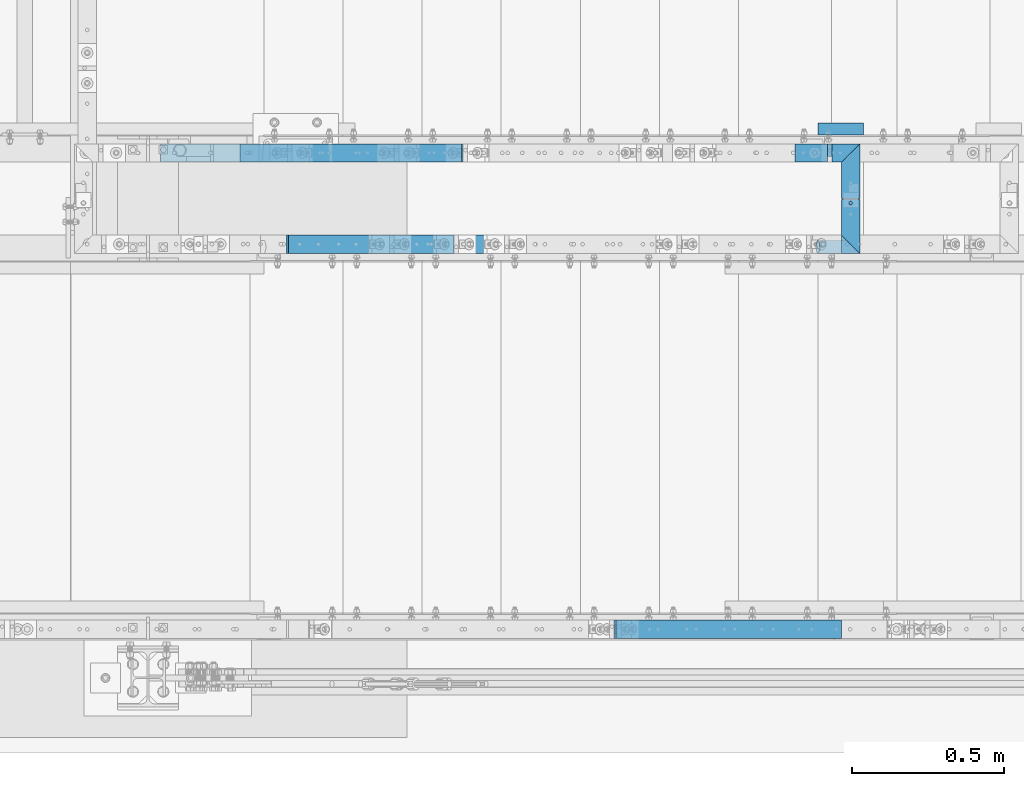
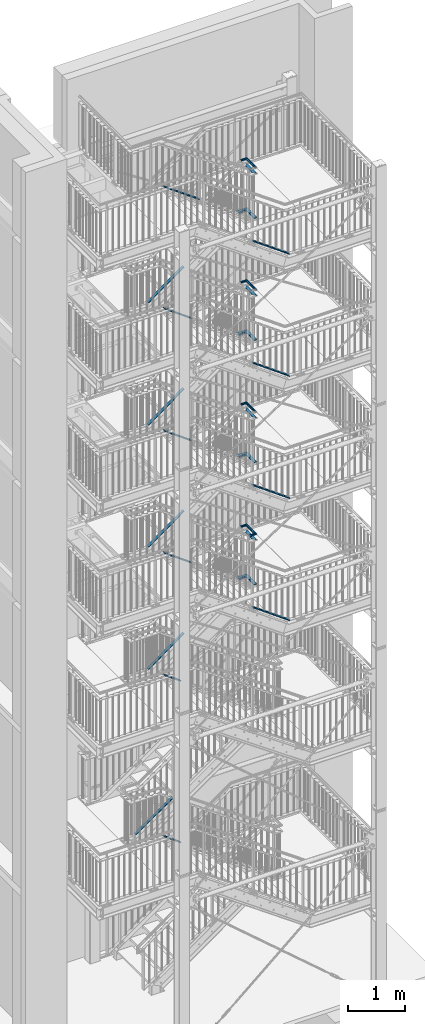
# One storey, part 138 of 831: 41 beams, 15 members, 8 openings.
"""IFC2X3 building model written with IfcOpenShell, lengths in millimetres."""

from ifc_helpers import new_model, entity, si_unit, converted_unit, frame, frame_2d, origin, origin_with_axes, origin_2d, place, context, project, spatial, rectangle, circle, hollow_circle, l_section, extrude, clip, halfspace, material, element, save


model = new_model("IFC2X3")

# Units and contexts
model_context = context("Model", 3, precision=1e-09, world=origin_with_axes())
ifc_project = project(units=[si_unit("LENGTHUNIT", "METRE", prefix="MILLI"), si_unit("AREAUNIT", "SQUARE_METRE"), si_unit("VOLUMEUNIT", "CUBIC_METRE"), converted_unit("PLANEANGLEUNIT", "DEGREE", entity("IfcPlaneAngleMeasure", 0.01745329), si_unit("PLANEANGLEUNIT", "RADIAN"), dimensions=[0, 0, 0, 0, 0, 0, 0])], contexts=[model_context])

# Site, building, storey
site_placement = place(None, origin_with_axes())
site = spatial("IfcSite", under=ifc_project, at=site_placement, Name="Site", CompositionType="ELEMENT")
building_placement = place(site_placement, origin_with_axes())
building = spatial("IfcBuilding", under=site, at=building_placement, Name="Struktur 1", CompositionType="ELEMENT")
storey_placement = place(building_placement, origin_with_axes())
storey = spatial("IfcBuildingStorey", under=building, at=storey_placement, Name="Default Storey", CompositionType="ELEMENT", Elevation=0.0)

# Members
ifc_material = material(Name="S235JR")
member_1_placement = place(None, frame((7131.715066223, 4526.736971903, 13962.449833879), z_axis=(0.810033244, 0.0, -0.586383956), x_axis=(-0.586383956, 0.0, -0.810033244)))
element("IfcMember", 1, at=member_1_placement, inside=storey, material=ifc_material, Name="Railing_Kneerail_Stair#15", ObjectType="Railing_Kneerail_Stair#15", context=model_context, shape_type="SweptSolid", body=[
    extrude(rectangle(XDim=10.0, YDim=60.0, at=origin_2d()), origin(), (0.0, 0.0, -1.0), 915.383630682),
])
member_2_placement = place(None, frame((7131.937672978, 4526.736971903, 16589.941905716), z_axis=(0.811618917, 0.0, -0.584187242), x_axis=(-0.584187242, 0.0, -0.811618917)))
element("IfcMember", 2, at=member_2_placement, inside=storey, material=ifc_material, Name="Railing_Kneerail_Stair#15", ObjectType="Railing_Kneerail_Stair#15", context=model_context, shape_type="SweptSolid", body=[
    extrude(rectangle(XDim=10.0, YDim=60.0, at=origin_2d()), origin(), (0.0, 0.0, -1.0), 913.8830392),
])
member_3_placement = place(None, frame((4900.549106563, 6091.736971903, 3912.909683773), z_axis=(-0.818063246, 0.0, -0.575128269), x_axis=(0.575128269, 0.0, -0.818063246)))
element("IfcMember", 3, at=member_3_placement, inside=storey, material=ifc_material, Name="Railing_Kneerail_Stair#2", ObjectType="Railing_Kneerail_Stair#2", context=model_context, shape_type="SweptSolid", body=[
    extrude(rectangle(XDim=10.0, YDim=60.0, at=origin_2d()), origin(), (0.0, 0.0, -1.0), 932.025112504),
])

# Beams
beam_1_placement = place(None, frame((7173.622212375, 6142.936971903, 17664.0000003), z_axis=(0.0, 1.0, 0.0), x_axis=(0.0, 0.0, -1.0)))
element("IfcBeam", 4, at=beam_1_placement, inside=storey, material=ifc_material, Name="Railing_Handrail_Landing#5", ObjectType="Railing_Handrail_Landing#5", context=model_context, shape_type="Clipping", body=[
    clip(extrude(hollow_circle(Radius=21.2, WallThickness=3.2, at=origin_2d()), origin(), (0.0, 0.0, -1.0), 201.2), halfspace(frame((17664.0000003, 6637.078885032, -6679.480299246), z_axis=(0.0, -0.707106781, -0.707106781), x_axis=(0.0, -0.707106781, 0.707106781)), True)),
])
beam_2_placement = place(None, frame((7173.622212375, 5938.736971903, 17664.0000003), z_axis=(0.0, 1.0, 0.0), x_axis=(0.0, 0.0, -1.0)))
element("IfcBeam", 5, at=beam_2_placement, inside=storey, material=ifc_material, Name="Railing_Handrail_Landing#5", ObjectType="Railing_Handrail_Landing#5", context=model_context, shape_type="Clipping", body=[
    clip(extrude(hollow_circle(Radius=21.2, WallThickness=3.2, at=origin_2d()), origin(), (0.0, 0.0, -1.0), 198.2), halfspace(frame((17664.0000003, 695.341913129, 539.543327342), z_axis=(0.0, -0.707106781, 0.707106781), x_axis=(0.0, 0.707106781, 0.707106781)), True)),
])
beam_3_placement = place(None, frame((7164.822212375, 6134.748598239, 17537.8000003), z_axis=(0.0, 1.0, 0.0), x_axis=(0.0, 0.0, -1.0)))
element("IfcBeam", 6, at=beam_3_placement, inside=storey, material=ifc_material, Name="Railing_Kneerail_Landing#1006", ObjectType="Railing_Kneerail_Landing#1006", context=model_context, shape_type="Clipping", body=[
    clip(extrude(rectangle(XDim=10.0, YDim=60.0, at=origin_2d()), origin(), (0.0, 0.0, -1.0), 193.011626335), halfspace(frame((17537.8000003, 6628.278885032, -6671.291925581), z_axis=(0.0, -0.707106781, -0.707106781), x_axis=(0.0, -0.707106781, 0.707106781)), True)),
])

# Beam, opening
beam_4_placement = place(None, frame((7164.822212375, 5938.736971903, 17537.8000003), z_axis=(0.0, 1.0, 0.0), x_axis=(0.0, 0.0, -1.0)))
beam_4 = element("IfcBeam", 7, at=beam_4_placement, inside=storey, material=ifc_material, Name="Railing_Kneerail_Landing#1006", ObjectType="Railing_Kneerail_Landing#1006", context=model_context, shape_type="Clipping", body=[
    clip(extrude(rectangle(XDim=10.0, YDim=60.0, at=origin_2d()), origin(), (0.0, 0.0, -1.0), 190.011626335), halfspace(frame((17537.8000003, 686.541913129, 539.543327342), z_axis=(0.0, -0.707106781, 0.707106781), x_axis=(0.0, 0.707106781, 0.707106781)), True)),
])
opening_1_placement = place(beam_4_placement, frame((5.5, 0.0, -6.998999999), z_axis=(1.0, 0.0, 0.0), x_axis=(0.0, 1.0, 0.0)))
element("IfcOpeningElement", 8, at=opening_1_placement, cuts=beam_4, ObjectType="Opening", context=model_context, shape_type="SweptSolid", body=[
    extrude(circle(Radius=5.001, at=frame_2d((0.0, -5.001), x_axis=(1.0, 0.0))), origin(), (0.0, 0.0, -1.0), 11.0),
])

# Beam
beam_5_placement = place(None, frame((7164.822212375, 6134.748598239, 16589.0000003), z_axis=(0.0, 1.0, 0.0), x_axis=(0.0, 0.0, -1.0)))
element("IfcBeam", 9, at=beam_5_placement, inside=storey, material=ifc_material, Name="Railing_Kneerail_Landing#6", ObjectType="Railing_Kneerail_Landing#6", context=model_context, shape_type="Clipping", body=[
    clip(extrude(rectangle(XDim=10.0, YDim=60.0, at=origin_2d()), origin(), (0.0, 0.0, -1.0), 193.011626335), halfspace(frame((16589.0000003, 6628.278885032, -6671.291925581), z_axis=(0.0, -0.707106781, -0.707106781), x_axis=(0.0, -0.707106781, 0.707106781)), True)),
])

# Beam, opening
beam_6_placement = place(None, frame((7164.822212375, 5938.736971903, 16589.0000003), z_axis=(0.0, 1.0, 0.0), x_axis=(0.0, 0.0, -1.0)))
beam_6 = element("IfcBeam", 10, at=beam_6_placement, inside=storey, material=ifc_material, Name="Railing_Kneerail_Landing#6", ObjectType="Railing_Kneerail_Landing#6", context=model_context, shape_type="SweptSolid", body=[
    extrude(rectangle(XDim=10.0, YDim=60.0, at=origin_2d()), origin(), (0.0, 0.0, -1.0), 177.0),
])
opening_2_placement = place(beam_6_placement, frame((5.5, 0.0, -6.998999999), z_axis=(1.0, 0.0, 0.0), x_axis=(0.0, 1.0, 0.0)))
element("IfcOpeningElement", 11, at=opening_2_placement, cuts=beam_6, ObjectType="Opening", context=model_context, shape_type="SweptSolid", body=[
    extrude(circle(Radius=5.001, at=frame_2d((0.0, -5.001), x_axis=(1.0, 0.0))), origin(), (0.0, 0.0, -1.0), 11.0),
])

# Beams
beam_7_placement = place(None, frame((7173.622212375, 6142.936971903, 15036.5000001), z_axis=(0.0, 1.0, 0.0), x_axis=(0.0, 0.0, -1.0)))
element("IfcBeam", 12, at=beam_7_placement, inside=storey, material=ifc_material, Name="Railing_Handrail_Landing#5", ObjectType="Railing_Handrail_Landing#5", context=model_context, shape_type="Clipping", body=[
    clip(extrude(hollow_circle(Radius=21.2, WallThickness=3.2, at=origin_2d()), origin(), (0.0, 0.0, -1.0), 201.2), halfspace(frame((15036.5000001, 6637.078885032, -6679.480299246), z_axis=(0.0, -0.707106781, -0.707106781), x_axis=(0.0, -0.707106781, 0.707106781)), True)),
])
beam_8_placement = place(None, frame((7173.622212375, 5938.736971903, 15036.5000001), z_axis=(0.0, 1.0, 0.0), x_axis=(0.0, 0.0, -1.0)))
element("IfcBeam", 13, at=beam_8_placement, inside=storey, material=ifc_material, Name="Railing_Handrail_Landing#5", ObjectType="Railing_Handrail_Landing#5", context=model_context, shape_type="Clipping", body=[
    clip(extrude(hollow_circle(Radius=21.2, WallThickness=3.2, at=origin_2d()), origin(), (0.0, 0.0, -1.0), 198.2), halfspace(frame((15036.5000001, 695.341913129, 539.543327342), z_axis=(0.0, -0.707106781, 0.707106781), x_axis=(0.0, 0.707106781, 0.707106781)), True)),
])
beam_9_placement = place(None, frame((7164.822212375, 6134.748598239, 14910.3000001), z_axis=(0.0, 1.0, 0.0), x_axis=(0.0, 0.0, -1.0)))
element("IfcBeam", 14, at=beam_9_placement, inside=storey, material=ifc_material, Name="Railing_Kneerail_Landing#1006", ObjectType="Railing_Kneerail_Landing#1006", context=model_context, shape_type="Clipping", body=[
    clip(extrude(rectangle(XDim=10.0, YDim=60.0, at=origin_2d()), origin(), (0.0, 0.0, -1.0), 193.011626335), halfspace(frame((14910.3000001, 6628.278885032, -6671.291925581), z_axis=(0.0, -0.707106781, -0.707106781), x_axis=(0.0, -0.707106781, 0.707106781)), True)),
])

# Beam, opening
beam_10_placement = place(None, frame((7164.822212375, 5938.736971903, 14910.3000001), z_axis=(0.0, 1.0, 0.0), x_axis=(0.0, 0.0, -1.0)))
beam_10 = element("IfcBeam", 15, at=beam_10_placement, inside=storey, material=ifc_material, Name="Railing_Kneerail_Landing#1006", ObjectType="Railing_Kneerail_Landing#1006", context=model_context, shape_type="Clipping", body=[
    clip(extrude(rectangle(XDim=10.0, YDim=60.0, at=origin_2d()), origin(), (0.0, 0.0, -1.0), 190.011626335), halfspace(frame((14910.3000001, 686.541913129, 539.543327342), z_axis=(0.0, -0.707106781, 0.707106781), x_axis=(0.0, 0.707106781, 0.707106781)), True)),
])
opening_3_placement = place(beam_10_placement, frame((5.5, 0.0, -6.998999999), z_axis=(1.0, 0.0, 0.0), x_axis=(0.0, 1.0, 0.0)))
element("IfcOpeningElement", 16, at=opening_3_placement, cuts=beam_10, ObjectType="Opening", context=model_context, shape_type="SweptSolid", body=[
    extrude(circle(Radius=5.001, at=frame_2d((0.0, -5.001), x_axis=(1.0, 0.0))), origin(), (0.0, 0.0, -1.0), 11.0),
])

# Beam
beam_11_placement = place(None, frame((7164.822212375, 6134.748598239, 13961.5000001), z_axis=(0.0, 1.0, 0.0), x_axis=(0.0, 0.0, -1.0)))
element("IfcBeam", 17, at=beam_11_placement, inside=storey, material=ifc_material, Name="Railing_Kneerail_Landing#6", ObjectType="Railing_Kneerail_Landing#6", context=model_context, shape_type="Clipping", body=[
    clip(extrude(rectangle(XDim=10.0, YDim=60.0, at=origin_2d()), origin(), (0.0, 0.0, -1.0), 193.011626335), halfspace(frame((13961.5000001, 6628.278885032, -6671.291925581), z_axis=(0.0, -0.707106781, -0.707106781), x_axis=(0.0, -0.707106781, 0.707106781)), True)),
])

# Beam, opening
beam_12_placement = place(None, frame((7164.822212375, 5938.736971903, 13961.5000001), z_axis=(0.0, 1.0, 0.0), x_axis=(0.0, 0.0, -1.0)))
beam_12 = element("IfcBeam", 18, at=beam_12_placement, inside=storey, material=ifc_material, Name="Railing_Kneerail_Landing#6", ObjectType="Railing_Kneerail_Landing#6", context=model_context, shape_type="SweptSolid", body=[
    extrude(rectangle(XDim=10.0, YDim=60.0, at=origin_2d()), origin(), (0.0, 0.0, -1.0), 177.0),
])
opening_4_placement = place(beam_12_placement, frame((5.5, 0.0, -6.998999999), z_axis=(1.0, 0.0, 0.0), x_axis=(0.0, 1.0, 0.0)))
element("IfcOpeningElement", 19, at=opening_4_placement, cuts=beam_12, ObjectType="Opening", context=model_context, shape_type="SweptSolid", body=[
    extrude(circle(Radius=5.001, at=frame_2d((0.0, -5.001), x_axis=(1.0, 0.0))), origin(), (0.0, 0.0, -1.0), 11.0),
])

# Beams
beam_13_placement = place(None, frame((7173.622212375, 6142.936971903, 12405.5000003), z_axis=(0.0, 1.0, 0.0), x_axis=(0.0, 0.0, -1.0)))
element("IfcBeam", 20, at=beam_13_placement, inside=storey, material=ifc_material, Name="Railing_Handrail_Landing#5", ObjectType="Railing_Handrail_Landing#5", context=model_context, shape_type="Clipping", body=[
    clip(extrude(hollow_circle(Radius=21.2, WallThickness=3.2, at=origin_2d()), origin(), (0.0, 0.0, -1.0), 201.2), halfspace(frame((12405.5000003, 6637.078885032, -6679.480299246), z_axis=(0.0, -0.707106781, -0.707106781), x_axis=(0.0, -0.707106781, 0.707106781)), True)),
])
beam_14_placement = place(None, frame((7173.622212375, 5938.736971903, 12405.5000003), z_axis=(0.0, 1.0, 0.0), x_axis=(0.0, 0.0, -1.0)))
element("IfcBeam", 21, at=beam_14_placement, inside=storey, material=ifc_material, Name="Railing_Handrail_Landing#5", ObjectType="Railing_Handrail_Landing#5", context=model_context, shape_type="Clipping", body=[
    clip(extrude(hollow_circle(Radius=21.2, WallThickness=3.2, at=origin_2d()), origin(), (0.0, 0.0, -1.0), 198.2), halfspace(frame((12405.5000003, 695.341913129, 539.543327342), z_axis=(0.0, -0.707106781, 0.707106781), x_axis=(0.0, 0.707106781, 0.707106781)), True)),
])
beam_15_placement = place(None, frame((7164.822212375, 6134.748598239, 12279.3000003), z_axis=(0.0, 1.0, 0.0), x_axis=(0.0, 0.0, -1.0)))
element("IfcBeam", 22, at=beam_15_placement, inside=storey, material=ifc_material, Name="Railing_Kneerail_Landing#1006", ObjectType="Railing_Kneerail_Landing#1006", context=model_context, shape_type="Clipping", body=[
    clip(extrude(rectangle(XDim=10.0, YDim=60.0, at=origin_2d()), origin(), (0.0, 0.0, -1.0), 193.011626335), halfspace(frame((12279.3000003, 6628.278885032, -6671.291925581), z_axis=(0.0, -0.707106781, -0.707106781), x_axis=(0.0, -0.707106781, 0.707106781)), True)),
])

# Beam, opening
beam_16_placement = place(None, frame((7164.822212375, 5938.736971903, 12279.3000003), z_axis=(0.0, 1.0, 0.0), x_axis=(0.0, 0.0, -1.0)))
beam_16 = element("IfcBeam", 23, at=beam_16_placement, inside=storey, material=ifc_material, Name="Railing_Kneerail_Landing#1006", ObjectType="Railing_Kneerail_Landing#1006", context=model_context, shape_type="Clipping", body=[
    clip(extrude(rectangle(XDim=10.0, YDim=60.0, at=origin_2d()), origin(), (0.0, 0.0, -1.0), 190.011626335), halfspace(frame((12279.3000003, 686.541913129, 539.543327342), z_axis=(0.0, -0.707106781, 0.707106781), x_axis=(0.0, 0.707106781, 0.707106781)), True)),
])
opening_5_placement = place(beam_16_placement, frame((5.5, 0.0, -6.998999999), z_axis=(1.0, 0.0, 0.0), x_axis=(0.0, 1.0, 0.0)))
element("IfcOpeningElement", 24, at=opening_5_placement, cuts=beam_16, ObjectType="Opening", context=model_context, shape_type="SweptSolid", body=[
    extrude(circle(Radius=5.001, at=frame_2d((0.0, -5.001), x_axis=(1.0, 0.0))), origin(), (0.0, 0.0, -1.0), 11.0),
])

# Beam
beam_17_placement = place(None, frame((7164.822212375, 6134.748598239, 11330.5000003), z_axis=(0.0, 1.0, 0.0), x_axis=(0.0, 0.0, -1.0)))
element("IfcBeam", 25, at=beam_17_placement, inside=storey, material=ifc_material, Name="Railing_Kneerail_Landing#6", ObjectType="Railing_Kneerail_Landing#6", context=model_context, shape_type="Clipping", body=[
    clip(extrude(rectangle(XDim=10.0, YDim=60.0, at=origin_2d()), origin(), (0.0, 0.0, -1.0), 193.011626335), halfspace(frame((11330.5000003, 6628.278885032, -6671.291925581), z_axis=(0.0, -0.707106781, -0.707106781), x_axis=(0.0, -0.707106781, 0.707106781)), True)),
])

# Beam, opening
beam_18_placement = place(None, frame((7164.822212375, 5938.736971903, 11330.5000003), z_axis=(0.0, 1.0, 0.0), x_axis=(0.0, 0.0, -1.0)))
beam_18 = element("IfcBeam", 26, at=beam_18_placement, inside=storey, material=ifc_material, Name="Railing_Kneerail_Landing#6", ObjectType="Railing_Kneerail_Landing#6", context=model_context, shape_type="SweptSolid", body=[
    extrude(rectangle(XDim=10.0, YDim=60.0, at=origin_2d()), origin(), (0.0, 0.0, -1.0), 177.0),
])
opening_6_placement = place(beam_18_placement, frame((5.5, 0.0, -6.998999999), z_axis=(1.0, 0.0, 0.0), x_axis=(0.0, 1.0, 0.0)))
element("IfcOpeningElement", 27, at=opening_6_placement, cuts=beam_18, ObjectType="Opening", context=model_context, shape_type="SweptSolid", body=[
    extrude(circle(Radius=5.001, at=frame_2d((0.0, -5.001), x_axis=(1.0, 0.0))), origin(), (0.0, 0.0, -1.0), 11.0),
])

# Beams
beam_19_placement = place(None, frame((7173.622212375, 6142.936971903, 9776.0), z_axis=(0.0, 1.0, 0.0), x_axis=(0.0, 0.0, -1.0)))
element("IfcBeam", 28, at=beam_19_placement, inside=storey, material=ifc_material, Name="Railing_Handrail_Landing#5", ObjectType="Railing_Handrail_Landing#5", context=model_context, shape_type="Clipping", body=[
    clip(extrude(hollow_circle(Radius=21.2, WallThickness=3.2, at=origin_2d()), origin(), (0.0, 0.0, -1.0), 201.2), halfspace(frame((9776.0, 6637.078885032, -6679.480299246), z_axis=(0.0, -0.707106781, -0.707106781), x_axis=(0.0, -0.707106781, 0.707106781)), True)),
])
beam_20_placement = place(None, frame((7173.622212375, 5938.736971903, 9776.0), z_axis=(0.0, 1.0, 0.0), x_axis=(0.0, 0.0, -1.0)))
element("IfcBeam", 29, at=beam_20_placement, inside=storey, material=ifc_material, Name="Railing_Handrail_Landing#5", ObjectType="Railing_Handrail_Landing#5", context=model_context, shape_type="Clipping", body=[
    clip(extrude(hollow_circle(Radius=21.2, WallThickness=3.2, at=origin_2d()), origin(), (0.0, 0.0, -1.0), 198.2), halfspace(frame((9776.0, 695.341913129, 539.543327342), z_axis=(0.0, -0.707106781, 0.707106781), x_axis=(0.0, 0.707106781, 0.707106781)), True)),
])
beam_21_placement = place(None, frame((7164.822212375, 6134.748598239, 9649.8), z_axis=(0.0, 1.0, 0.0), x_axis=(0.0, 0.0, -1.0)))
element("IfcBeam", 30, at=beam_21_placement, inside=storey, material=ifc_material, Name="Railing_Kneerail_Landing#1006", ObjectType="Railing_Kneerail_Landing#1006", context=model_context, shape_type="Clipping", body=[
    clip(extrude(rectangle(XDim=10.0, YDim=60.0, at=origin_2d()), origin(), (0.0, 0.0, -1.0), 193.011626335), halfspace(frame((9649.8, 6628.278885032, -6671.291925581), z_axis=(0.0, -0.707106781, -0.707106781), x_axis=(0.0, -0.707106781, 0.707106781)), True)),
])

# Beam, opening
beam_22_placement = place(None, frame((7164.822212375, 5938.736971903, 9649.8), z_axis=(0.0, 1.0, 0.0), x_axis=(0.0, 0.0, -1.0)))
beam_22 = element("IfcBeam", 31, at=beam_22_placement, inside=storey, material=ifc_material, Name="Railing_Kneerail_Landing#1006", ObjectType="Railing_Kneerail_Landing#1006", context=model_context, shape_type="Clipping", body=[
    clip(extrude(rectangle(XDim=10.0, YDim=60.0, at=origin_2d()), origin(), (0.0, 0.0, -1.0), 190.011626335), halfspace(frame((9649.8, 686.541913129, 539.543327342), z_axis=(0.0, -0.707106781, 0.707106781), x_axis=(0.0, 0.707106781, 0.707106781)), True)),
])
opening_7_placement = place(beam_22_placement, frame((5.5, 0.0, -6.998999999), z_axis=(1.0, 0.0, 0.0), x_axis=(0.0, 1.0, 0.0)))
element("IfcOpeningElement", 32, at=opening_7_placement, cuts=beam_22, ObjectType="Opening", context=model_context, shape_type="SweptSolid", body=[
    extrude(circle(Radius=5.001, at=frame_2d((0.0, -5.001), x_axis=(1.0, 0.0))), origin(), (0.0, 0.0, -1.0), 11.0),
])

# Beam
beam_23_placement = place(None, frame((7164.822212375, 6134.748598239, 8701.0), z_axis=(0.0, 1.0, 0.0), x_axis=(0.0, 0.0, -1.0)))
element("IfcBeam", 33, at=beam_23_placement, inside=storey, material=ifc_material, Name="Railing_Kneerail_Landing#6", ObjectType="Railing_Kneerail_Landing#6", context=model_context, shape_type="Clipping", body=[
    clip(extrude(rectangle(XDim=10.0, YDim=60.0, at=origin_2d()), origin(), (0.0, 0.0, -1.0), 193.011626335), halfspace(frame((8701.0, 6628.278885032, -6671.291925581), z_axis=(0.0, -0.707106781, -0.707106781), x_axis=(0.0, -0.707106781, 0.707106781)), True)),
])

# Beam, opening
beam_24_placement = place(None, frame((7164.822212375, 5938.736971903, 8701.0), z_axis=(0.0, 1.0, 0.0), x_axis=(0.0, 0.0, -1.0)))
beam_24 = element("IfcBeam", 34, at=beam_24_placement, inside=storey, material=ifc_material, Name="Railing_Kneerail_Landing#6", ObjectType="Railing_Kneerail_Landing#6", context=model_context, shape_type="SweptSolid", body=[
    extrude(rectangle(XDim=10.0, YDim=60.0, at=origin_2d()), origin(), (0.0, 0.0, -1.0), 177.0),
])
opening_8_placement = place(beam_24_placement, frame((5.5, 0.0, -6.998999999), z_axis=(1.0, 0.0, 0.0), x_axis=(0.0, 1.0, 0.0)))
element("IfcOpeningElement", 35, at=opening_8_placement, cuts=beam_24, ObjectType="Opening", context=model_context, shape_type="SweptSolid", body=[
    extrude(circle(Radius=5.001, at=frame_2d((0.0, -5.001), x_axis=(1.0, 0.0))), origin(), (0.0, 0.0, -1.0), 11.0),
])

# Beams
for number, where, z_axis, x_axis, name in (
    (36, (7206.713402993, 6160.936971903, 11254.3000003), (1.0, 0.0, 0.0), (0.0, 0.0, -1.0), "TopLanding#3"),
    (37, (7206.713402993, 6160.936971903, 8624.8), (1.0, 0.0, 0.0), (0.0, 0.0, -1.0), "TopLanding#3"),
    (38, (7206.713402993, 6160.936971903, 13885.3000001), (1.0, 0.0, 0.0), (0.0, 0.0, -1.0), "TopLanding#3"),
    (39, (7206.713402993, 6160.936971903, 16512.8000003), (1.0, 0.0, 0.0), (0.0, 0.0, -1.0), "TopLanding#3"),
):
    element("IfcBeam", number, at=place(None, frame(where, z_axis=z_axis, x_axis=x_axis)), inside=storey, material=ifc_material, Name=name, ObjectType="TopLanding#3", context=model_context, shape_type="SweptSolid", body=[
        extrude(l_section(Depth=40.0, Width=40.0, Thickness=4.0, FilletRadius=6.0, EdgeRadius=3.0, at=frame_2d((8.8, 8.8))), origin(), (0.0, 0.0, -1.0), 150.0),
    ])
beam_25_placement = place(None, frame((7025.200780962, 6100.536971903, 9776.0), z_axis=(-1.0, 0.0, 0.0), x_axis=(0.0, 0.0, -1.0)))
element("IfcBeam", 40, at=beam_25_placement, inside=storey, material=ifc_material, Name="Railing_Handrail_Landing#4", ObjectType="Railing_Handrail_Landing#4", context=model_context, shape_type="Clipping", body=[
    clip(clip(extrude(hollow_circle(Radius=21.2, WallThickness=3.2, at=origin_2d()), origin(), (0.0, 0.0, -1.0), 190.821431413), halfspace(frame((9776.0, 6637.078885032, 6488.658867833), z_axis=(0.0, -0.707106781, 0.707106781), x_axis=(0.0, 0.707106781, 0.707106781)), True)), halfspace(frame((6781.567004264, 6100.536971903, -2226.46429398), z_axis=(-0.307936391, 0.0, -0.951406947), x_axis=(0.0, -1.0, 0.0)), True)),
])

# Member
member_4_placement = place(None, frame((5161.667486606, 6091.736971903, 7385.94824821), z_axis=(-0.810350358, 0.0, -0.585945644), x_axis=(0.585945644, 0.0, -0.810350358)))
element("IfcMember", 41, at=member_4_placement, inside=storey, material=ifc_material, Name="Railing_Kneerail_Stair#2", ObjectType="Railing_Kneerail_Stair#2", context=model_context, shape_type="SweptSolid", body=[
    extrude(rectangle(XDim=10.0, YDim=60.0, at=origin_2d()), origin(), (0.0, 0.0, -1.0), 897.286810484),
])

# Beams
beam_26_placement = place(None, frame((6981.974400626, 6091.736971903, 8701.0), z_axis=(-1.0, 0.0, 0.0), x_axis=(0.0, 0.0, -1.0)))
element("IfcBeam", 42, at=beam_26_placement, inside=storey, material=ifc_material, Name="Railing_Kneerail_Landing#4", ObjectType="Railing_Kneerail_Landing#4", context=model_context, shape_type="SweptSolid", body=[
    extrude(rectangle(XDim=10.0, YDim=60.0, at=origin_2d()), origin(), (0.0, 0.0, -1.0), 107.240002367),
])
beam_27_placement = place(None, frame((7104.214402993, 6091.736971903, 8701.0), z_axis=(-1.0, 0.0, 0.0), x_axis=(0.0, 0.0, -1.0)))
element("IfcBeam", 43, at=beam_27_placement, inside=storey, material=ifc_material, Name="Railing_Kneerail_Landing#5", ObjectType="Railing_Kneerail_Landing#5", context=model_context, shape_type="Clipping", body=[
    clip(extrude(rectangle(XDim=10.0, YDim=60.0, at=origin_2d()), origin(), (0.0, 0.0, -1.0), 103.619435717), halfspace(frame((8701.0, 6628.278885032, 6567.672489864), z_axis=(0.0, -0.707106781, 0.707106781), x_axis=(0.0, 0.707106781, 0.707106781)), True)),
])
beam_28_placement = place(None, frame((7025.205380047, 6100.536971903, 12405.5000003), z_axis=(-1.0, 0.0, 0.0), x_axis=(0.0, 0.0, -1.0)))
element("IfcBeam", 44, at=beam_28_placement, inside=storey, material=ifc_material, Name="Railing_Handrail_Landing#4", ObjectType="Railing_Handrail_Landing#4", context=model_context, shape_type="Clipping", body=[
    clip(clip(extrude(hollow_circle(Radius=21.2, WallThickness=3.2, at=origin_2d()), origin(), (0.0, 0.0, -1.0), 190.816832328), halfspace(frame((12405.5000003, 6637.078885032, 6488.663466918), z_axis=(0.0, -0.707106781, 0.707106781), x_axis=(0.0, 0.707106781, 0.707106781)), True)), halfspace(frame((9167.585155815, 6100.536971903, -2994.158300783), z_axis=(-0.307506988, 0.0, -0.951545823), x_axis=(0.0, -1.0, 0.0)), True)),
])

# Member
member_5_placement = place(None, frame((5161.593434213, 6091.736971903, 10017.945605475), z_axis=(-0.810878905, 0.0, -0.585213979), x_axis=(0.585213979, 0.0, -0.810878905)))
element("IfcMember", 45, at=member_5_placement, inside=storey, material=ifc_material, Name="Railing_Kneerail_Stair#2", ObjectType="Railing_Kneerail_Stair#2", context=model_context, shape_type="SweptSolid", body=[
    extrude(rectangle(XDim=10.0, YDim=60.0, at=origin_2d()), origin(), (0.0, 0.0, -1.0), 896.797776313),
])

# Beams
beam_29_placement = place(None, frame((6981.89902139, 6091.736971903, 11330.5000003), z_axis=(-1.0, 0.0, 0.0), x_axis=(0.0, 0.0, -1.0)))
element("IfcBeam", 46, at=beam_29_placement, inside=storey, material=ifc_material, Name="Railing_Kneerail_Landing#4", ObjectType="Railing_Kneerail_Landing#4", context=model_context, shape_type="SweptSolid", body=[
    extrude(rectangle(XDim=10.0, YDim=60.0, at=origin_2d()), origin(), (0.0, 0.0, -1.0), 107.315381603),
])
beam_30_placement = place(None, frame((7104.214402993, 6091.736971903, 11330.5000003), z_axis=(-1.0, 0.0, 0.0), x_axis=(0.0, 0.0, -1.0)))
element("IfcBeam", 47, at=beam_30_placement, inside=storey, material=ifc_material, Name="Railing_Kneerail_Landing#5", ObjectType="Railing_Kneerail_Landing#5", context=model_context, shape_type="Clipping", body=[
    clip(extrude(rectangle(XDim=10.0, YDim=60.0, at=origin_2d()), origin(), (0.0, 0.0, -1.0), 103.619435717), halfspace(frame((11330.5000003, 6628.278885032, 6567.672489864), z_axis=(0.0, -0.707106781, 0.707106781), x_axis=(0.0, 0.707106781, 0.707106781)), True)),
])
beam_31_placement = place(None, frame((7025.198020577, 6100.536971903, 15036.5000001), z_axis=(-1.0, 0.0, 0.0), x_axis=(0.0, 0.0, -1.0)))
element("IfcBeam", 48, at=beam_31_placement, inside=storey, material=ifc_material, Name="Railing_Handrail_Landing#4", ObjectType="Railing_Handrail_Landing#4", context=model_context, shape_type="Clipping", body=[
    clip(clip(extrude(hollow_circle(Radius=21.2, WallThickness=3.2, at=origin_2d()), origin(), (0.0, 0.0, -1.0), 190.824191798), halfspace(frame((15036.5000001, 6637.078885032, 6488.656107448), z_axis=(0.0, -0.707106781, 0.707106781), x_axis=(0.0, 0.707106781, 0.707106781)), True)), halfspace(frame((11539.310370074, 6100.536971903, -3769.827031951), z_axis=(-0.308193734, 0.0, -0.951323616), x_axis=(0.0, -1.0, 0.0)), True)),
])

# Member
member_6_placement = place(None, frame((5161.711739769, 6091.736971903, 12644.949833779), z_axis=(-0.810033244, 0.0, -0.586383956), x_axis=(0.586383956, 0.0, -0.810033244)))
element("IfcMember", 49, at=member_6_placement, inside=storey, material=ifc_material, Name="Railing_Kneerail_Stair#2", ObjectType="Railing_Kneerail_Stair#2", context=model_context, shape_type="SweptSolid", body=[
    extrude(rectangle(XDim=10.0, YDim=60.0, at=origin_2d()), origin(), (0.0, 0.0, -1.0), 897.580745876),
])

# Beams
beam_32_placement = place(None, frame((6982.019450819, 6091.736971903, 13961.5000001), z_axis=(-1.0, 0.0, 0.0), x_axis=(0.0, 0.0, -1.0)))
element("IfcBeam", 50, at=beam_32_placement, inside=storey, material=ifc_material, Name="Railing_Kneerail_Landing#4", ObjectType="Railing_Kneerail_Landing#4", context=model_context, shape_type="SweptSolid", body=[
    extrude(rectangle(XDim=10.0, YDim=60.0, at=origin_2d()), origin(), (0.0, 0.0, -1.0), 107.194952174),
])
beam_33_placement = place(None, frame((7104.214402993, 6091.736971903, 13961.5000001), z_axis=(-1.0, 0.0, 0.0), x_axis=(0.0, 0.0, -1.0)))
element("IfcBeam", 51, at=beam_33_placement, inside=storey, material=ifc_material, Name="Railing_Kneerail_Landing#5", ObjectType="Railing_Kneerail_Landing#5", context=model_context, shape_type="Clipping", body=[
    clip(extrude(rectangle(XDim=10.0, YDim=60.0, at=origin_2d()), origin(), (0.0, 0.0, -1.0), 103.619435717), halfspace(frame((13961.5000001, 6628.278885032, 6567.672489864), z_axis=(0.0, -0.707106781, 0.707106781), x_axis=(0.0, 0.707106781, 0.707106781)), True)),
])
beam_34_placement = place(None, frame((7025.211816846, 6100.536971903, 17664.0000003), z_axis=(-1.0, 0.0, 0.0), x_axis=(0.0, 0.0, -1.0)))
element("IfcBeam", 52, at=beam_34_placement, inside=storey, material=ifc_material, Name="Railing_Handrail_Landing#4", ObjectType="Railing_Handrail_Landing#4", context=model_context, shape_type="Clipping", body=[
    clip(clip(extrude(hollow_circle(Radius=21.2, WallThickness=3.2, at=origin_2d()), origin(), (0.0, 0.0, -1.0), 190.810395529), halfspace(frame((17664.0000003, 6637.078885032, 6488.669903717), z_axis=(0.0, -0.707106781, 0.707106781), x_axis=(0.0, 0.707106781, 0.707106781)), True)), halfspace(frame((13938.99699536, 6100.536971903, -4526.368604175), z_axis=(-0.306904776, 0.0, -0.951740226), x_axis=(0.0, -1.0, 0.0)), True)),
])

# Member
member_7_placement = place(None, frame((5161.489133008, 6091.736971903, 15279.941905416), z_axis=(-0.811618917, 0.0, -0.584187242), x_axis=(0.584187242, 0.0, -0.811618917)))
element("IfcMember", 53, at=member_7_placement, inside=storey, material=ifc_material, Name="Railing_Kneerail_Stair#2", ObjectType="Railing_Kneerail_Stair#2", context=model_context, shape_type="SweptSolid", body=[
    extrude(rectangle(XDim=10.0, YDim=60.0, at=origin_2d()), origin(), (0.0, 0.0, -1.0), 896.114936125),
])

# Beams
beam_35_placement = place(None, frame((6981.792867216, 6091.736971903, 16589.0000003), z_axis=(-1.0, 0.0, 0.0), x_axis=(0.0, 0.0, -1.0)))
element("IfcBeam", 54, at=beam_35_placement, inside=storey, material=ifc_material, Name="Railing_Kneerail_Landing#4", ObjectType="Railing_Kneerail_Landing#4", context=model_context, shape_type="SweptSolid", body=[
    extrude(rectangle(XDim=10.0, YDim=60.0, at=origin_2d()), origin(), (0.0, 0.0, -1.0), 107.421535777),
])
beam_36_placement = place(None, frame((7104.214402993, 6091.736971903, 16589.0000003), z_axis=(-1.0, 0.0, 0.0), x_axis=(0.0, 0.0, -1.0)))
element("IfcBeam", 55, at=beam_36_placement, inside=storey, material=ifc_material, Name="Railing_Kneerail_Landing#5", ObjectType="Railing_Kneerail_Landing#5", context=model_context, shape_type="Clipping", body=[
    clip(extrude(rectangle(XDim=10.0, YDim=60.0, at=origin_2d()), origin(), (0.0, 0.0, -1.0), 103.619435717), halfspace(frame((16589.0000003, 6628.278885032, 6567.672489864), z_axis=(0.0, -0.707106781, 0.707106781), x_axis=(0.0, 0.707106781, 0.707106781)), True)),
])

# Members
member_8_placement = place(None, frame((5646.313866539, 5791.736971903, 3675.178020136), z_axis=(0.814635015, 0.0, -0.579973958), x_axis=(-0.579973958, 0.0, -0.814635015)))
element("IfcMember", 56, at=member_8_placement, inside=storey, material=ifc_material, Name="Railing_Kneerail_Stair#4", ObjectType="Railing_Kneerail_Stair#4", context=model_context, shape_type="SweptSolid", body=[
    extrude(rectangle(XDim=10.0, YDim=60.0, at=origin_2d()), origin(), (0.0, 0.0, -1.0), 406.734047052),
])
member_9_placement = place(None, frame((5646.338094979, 5791.736971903, 7151.474875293), z_axis=(0.818063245, 0.0, -0.57512827), x_axis=(-0.57512827, 0.0, -0.818063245)))
element("IfcMember", 57, at=member_9_placement, inside=storey, material=ifc_material, Name="Railing_Kneerail_Stair#4", ObjectType="Railing_Kneerail_Stair#4", context=model_context, shape_type="SweptSolid", body=[
    extrude(rectangle(XDim=10.0, YDim=60.0, at=origin_2d()), origin(), (0.0, 0.0, -1.0), 404.458367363),
])

# Beam
beam_37_placement = place(None, frame((7216.022212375, 5782.936971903, 9776.0), z_axis=(1.0, 0.0, 0.0), x_axis=(0.0, 0.0, -1.0)))
element("IfcBeam", 58, at=beam_37_placement, inside=storey, material=ifc_material, Name="Railing_Handrail_Landing#2", ObjectType="Railing_Handrail_Landing#2", context=model_context, shape_type="Clipping", body=[
    clip(clip(extrude(hollow_circle(Radius=21.2, WallThickness=3.2, at=origin_2d()), origin(), (0.0, 0.0, -1.0), 190.821431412), halfspace(frame((9776.0, 695.341913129, -737.743327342), z_axis=(0.0, -0.707106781, -0.707106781), x_axis=(0.0, -0.707106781, 0.707106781)), True)), halfspace(frame((10916.418096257, -5782.936971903, -3692.561748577), z_axis=(0.307936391, 0.0, 0.951406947), x_axis=(0.0, 1.0, 0.0)), True)),
])

# Members
member_10_placement = place(None, frame((5858.784174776, 5791.736971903, 9622.407198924), z_axis=(0.810350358, 0.0, -0.585945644), x_axis=(-0.585945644, 0.0, -0.810350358)))
element("IfcMember", 59, at=member_10_placement, inside=storey, material=ifc_material, Name="Railing_Kneerail_Stair#3", ObjectType="Railing_Kneerail_Stair#3", context=model_context, shape_type="SweptSolid", body=[
    extrude(rectangle(XDim=10.0, YDim=60.0, at=origin_2d()), origin(), (0.0, 0.0, -1.0), 671.810699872),
])
member_11_placement = place(None, frame((5858.787833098, 5791.736971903, 12250.206767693), z_axis=(0.810878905, 0.0, -0.585213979), x_axis=(-0.585213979, 0.0, -0.810878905)))
element("IfcMember", 60, at=member_11_placement, inside=storey, material=ifc_material, Name="Railing_Kneerail_Stair#3", ObjectType="Railing_Kneerail_Stair#3", context=model_context, shape_type="SweptSolid", body=[
    extrude(rectangle(XDim=10.0, YDim=60.0, at=origin_2d()), origin(), (0.0, 0.0, -1.0), 671.288863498),
])
member_12_placement = place(None, frame((5858.781983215, 5791.736971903, 14883.927491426), z_axis=(0.810033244, 0.0, -0.586383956), x_axis=(-0.586383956, 0.0, -0.810033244)))
element("IfcMember", 61, at=member_12_placement, inside=storey, material=ifc_material, Name="Railing_Kneerail_Stair#3", ObjectType="Railing_Kneerail_Stair#3", context=model_context, shape_type="SweptSolid", body=[
    extrude(rectangle(XDim=10.0, YDim=60.0, at=origin_2d()), origin(), (0.0, 0.0, -1.0), 672.123906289),
])
member_13_placement = place(None, frame((6025.043216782, 5791.736971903, 17386.662640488), z_axis=(0.811618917, 0.0, -0.584187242), x_axis=(-0.584187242, 0.0, -0.811618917)))
element("IfcMember", 62, at=member_13_placement, inside=storey, material=ifc_material, Name="Railing_Kneerail_Stair#3", ObjectType="Railing_Kneerail_Stair#3", context=model_context, shape_type="SweptSolid", body=[
    extrude(rectangle(XDim=10.0, YDim=60.0, at=origin_2d()), origin(), (0.0, 0.0, -1.0), 875.396477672),
])
member_14_placement = place(None, frame((7131.759319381, 4526.736971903, 8701.94824821), z_axis=(0.810350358, 0.0, -0.585945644), x_axis=(-0.585945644, 0.0, -0.810350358)))
element("IfcMember", 63, at=member_14_placement, inside=storey, material=ifc_material, Name="Railing_Kneerail_Stair#15", ObjectType="Railing_Kneerail_Stair#15", context=model_context, shape_type="SweptSolid", body=[
    extrude(rectangle(XDim=10.0, YDim=60.0, at=origin_2d()), origin(), (0.0, 0.0, -1.0), 915.082728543),
])
member_15_placement = place(None, frame((7131.833371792, 4526.736971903, 11331.445605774), z_axis=(0.810878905, 0.0, -0.585213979), x_axis=(-0.585213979, 0.0, -0.810878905)))
element("IfcMember", 64, at=member_15_placement, inside=storey, material=ifc_material, Name="Railing_Kneerail_Stair#15", ObjectType="Railing_Kneerail_Stair#15", context=model_context, shape_type="SweptSolid", body=[
    extrude(rectangle(XDim=10.0, YDim=60.0, at=origin_2d()), origin(), (0.0, 0.0, -1.0), 914.582094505),
])

save(model, "model.ifc")
